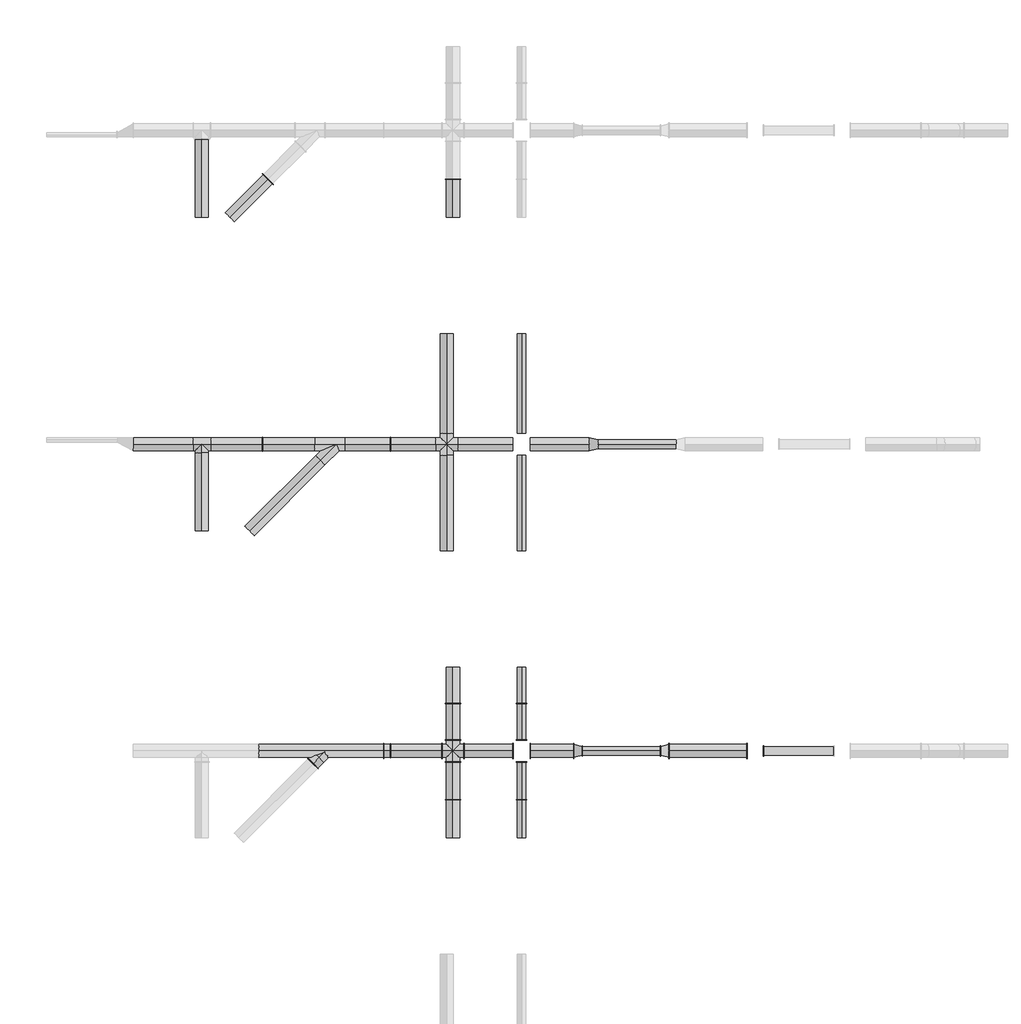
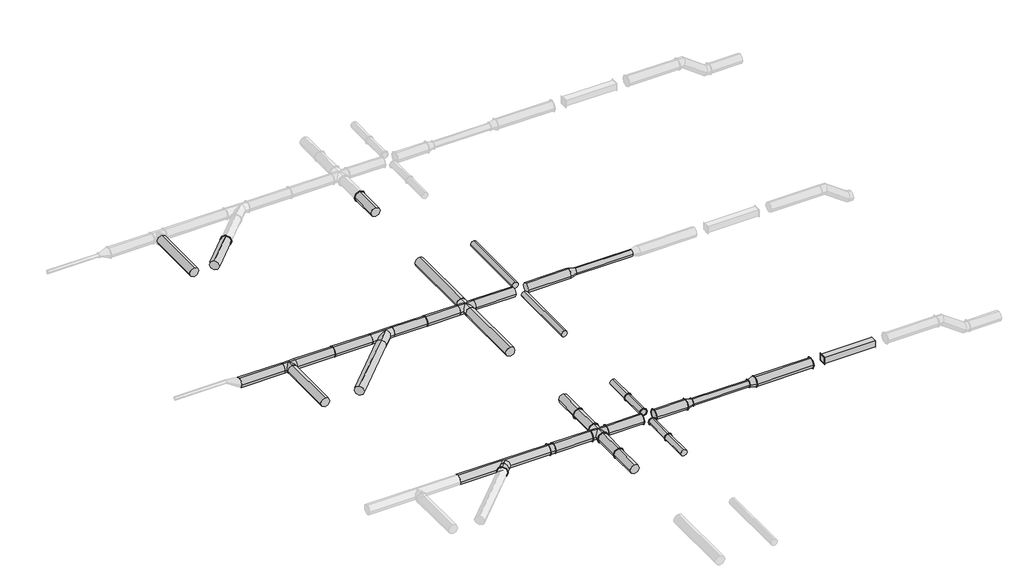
# One storey, part 2 of 8: 33 duct fittings, 33 duct segments.
"""IFC4 building model written with IfcOpenShell, lengths in millimetres."""

from ifc_helpers import new_model, si_unit, point, frame, frame_2d, origin, place, context, project, spatial, polyline, circle_curve, trimmed, segment, composite_curve, outline, extrude, transform, mapped, element, save
from components import duct_fitting_c73acc6d, duct_fitting_e0d7a8d8, duct_fitting_7b0f3d01, duct_fitting_c498028a, duct_fitting_766df063, duct_fitting_ef46aa1c, duct_fitting_3f762420, duct_fitting_a26a523e, duct_fitting_8ec2bed2, duct_fitting_327ef4ee, duct_fitting_1ddd712a, duct_fitting_6a6d7aa5, duct_fitting_49a873c3

model = new_model("IFC4")

# Units and contexts
model_context = context("Model", 3, world=origin())
ifc_project = project(units=[si_unit("LENGTHUNIT", "METRE", prefix="MILLI")], contexts=[model_context])

# Site, building, storey
site = spatial("IfcSite", under=ifc_project)
building = spatial("IfcBuilding", under=site)
storey = spatial("IfcBuildingStorey", under=building, Name="Уровень 1", Elevation=0.0)

# Duct fittings
placement = place(None, origin())
duct_fitting_shape = duct_fitting_c73acc6d(model_context)
element("IfcDuctFitting", 1, ObjectType="BL_КрестовинаВоздуховодов_Круглая : Ниппельное соединение", at=placement, inside=storey, context=model_context, shape_type="MappedRepresentation", body=[
    mapped(duct_fitting_shape, transform((-40817.6035183, 9680.2957144, 1050.0), x_axis=(0.0, 1.0, 0.0), y_axis=(-1.0, 0.0, 0.0), z_axis=(0.0, 0.0, 1.0))),
])
duct_fitting_2_shape = duct_fitting_e0d7a8d8(model_context)
element("IfcDuctFitting", 2, ObjectType="BL_ВрезкаВоздуховодов_Круглая : Фланцевое соединение", at=placement, inside=storey, context=model_context, shape_type="MappedRepresentation", body=[
    mapped(duct_fitting_2_shape, transform((-43756.6954888, 2461.2474283, 1050.0), x_axis=(-0.7071067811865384, -0.7071067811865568, 0.0), y_axis=(-0.7071067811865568, 0.7071067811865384, 0.0), z_axis=(0.0, 0.0, -1.0))),
])
duct_fitting_3_shape = duct_fitting_7b0f3d01(model_context)
element("IfcDuctFitting", 3, ObjectType="BL_ТройникВоздуховодов_Круглый-45 : Ниппельное соединение", at=placement, inside=storey, context=model_context, shape_type="MappedRepresentation", body=[
    mapped(duct_fitting_3_shape, transform((-43511.93314, 9680.2957144, 1050.0), x_axis=(-1.0, 0.0, 0.0), y_axis=(0.0, -1.0, 0.0), z_axis=(0.0, 0.0, 1.0))),
])
duct_fitting_4_shape = duct_fitting_c498028a(model_context)
element("IfcDuctFitting", 4, ObjectType="BL_ТройникВоздуховодов_Круглый-90 : Ниппельное соединение", at=placement, inside=storey, context=model_context, shape_type="MappedRepresentation", body=[
    mapped(duct_fitting_4_shape, transform((-46460.2026389, 9680.2957144, 1050.0), x_axis=(1.0, 0.0, 0.0), y_axis=(0.0, 1.0, 0.0), z_axis=(0.0, 0.0, 1.0))),
])
duct_fitting_5_shape = duct_fitting_766df063(model_context)
element("IfcDuctFitting", 5, ObjectType="BL_НиппельВоздуховдов_Круглый : BL_НиппельВоздуховдов_Круглый", at=placement, inside=storey, context=model_context, shape_type="MappedRepresentation", body=[
    mapped(duct_fitting_5_shape, transform((-45060.3141015, 9634.6214914, 1050.0), x_axis=(-1.0, 0.0, 0.0), y_axis=(0.0, -1.0, 0.0), z_axis=(0.0, 0.0, 1.0))),
])
element("IfcDuctFitting", 6, ObjectType="BL_НиппельВоздуховдов_Круглый : BL_НиппельВоздуховдов_Круглый", at=placement, inside=storey, context=model_context, shape_type="MappedRepresentation", body=[
    mapped(duct_fitting_5_shape, transform((-42115.5221171, 9634.6214914, 1050.0), x_axis=(-1.0, 0.0, 0.0), y_axis=(0.0, -1.0, 0.0), z_axis=(0.0, 0.0, 1.0))),
])
element("IfcDuctFitting", 7, ObjectType="BL_НиппельВоздуховдов_Круглый : BL_НиппельВоздуховдов_Круглый", at=placement, inside=storey, context=model_context, shape_type="MappedRepresentation", body=[
    mapped(duct_fitting_5_shape, transform((-42110.5221171, 2565.5732053, 1050.0), x_axis=(-1.0, 0.0, 0.0), y_axis=(0.0, -1.0, 0.0), z_axis=(0.0, 0.0, 1.0))),
])
duct_fitting_6_shape = duct_fitting_ef46aa1c(model_context)
element("IfcDuctFitting", 8, ObjectType="BL_ФланецВоздуховдов-Двойной_Круглый : BL_ФланецВоздуховдов-Двойной_Круглый", at=placement, inside=storey, context=model_context, shape_type="MappedRepresentation", body=[
    mapped(duct_fitting_6_shape, transform((-40719.7447871, 15786.2474283, 1050.0), x_axis=(0.0, 1.0, 0.0), y_axis=(-1.0, 0.0, 0.0), z_axis=(0.0, 0.0, 1.0))),
])
element("IfcDuctFitting", 9, ObjectType="BL_ФланецВоздуховдов-Двойной_Круглый : BL_ФланецВоздуховдов-Двойной_Круглый", at=placement, inside=storey, context=model_context, shape_type="MappedRepresentation", body=[
    mapped(duct_fitting_6_shape, transform((-44973.6209074, 15819.5439811, 1050.0), x_axis=(0.7071067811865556, 0.7071067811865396, 0.0), y_axis=(-0.7071067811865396, 0.7071067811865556, 0.0), z_axis=(0.0, 0.0, 1.0))),
])
element("IfcDuctFitting", 10, ObjectType="BL_ФланецВоздуховдов-Двойной_Круглый : BL_ФланецВоздуховдов-Двойной_Круглый", at=placement, inside=storey, context=model_context, shape_type="MappedRepresentation", body=[
    mapped(duct_fitting_6_shape, transform((-42271.4512474, 2565.5732053, 1050.0), x_axis=(-1.0, 0.0, 0.0), y_axis=(0.0, -1.0, 0.0), z_axis=(0.0, 0.0, 1.0))),
])
element("IfcDuctFitting", 11, ObjectType="BL_ФланецВоздуховдов-Двойной_Круглый : BL_ФланецВоздуховдов-Двойной_Круглый", at=placement, inside=storey, context=model_context, shape_type="MappedRepresentation", body=[
    mapped(duct_fitting_6_shape, transform((-40719.7447871, 1486.2474283, 1050.0), x_axis=(0.0, 1.0, 0.0), y_axis=(-1.0, 0.0, 0.0), z_axis=(0.0, 0.0, 1.0))),
])
element("IfcDuctFitting", 12, ObjectType="BL_ФланецВоздуховдов-Двойной_Круглый : BL_ФланецВоздуховдов-Двойной_Круглый", at=placement, inside=storey, context=model_context, shape_type="MappedRepresentation", body=[
    mapped(duct_fitting_6_shape, transform((-40719.7447871, 3702.4373404, 1050.0), x_axis=(0.0, 1.0, 0.0), y_axis=(-1.0, 0.0, 0.0), z_axis=(0.0, 0.0, 1.0))),
])
duct_fitting_7_shape = duct_fitting_3f762420(model_context)
element("IfcDuctFitting", 13, ObjectType="BL_ФланецВоздуховдов-Двойной_Круглый : BL_ФланецВоздуховдов-Двойной_Круглый", at=placement, inside=storey, context=model_context, shape_type="MappedRepresentation", body=[
    mapped(duct_fitting_7_shape, transform((-39139.7447871, 3701.4373404, 1050.0), x_axis=(0.0, 1.0, 0.0), y_axis=(-1.0, 0.0, 0.0), z_axis=(0.0, 0.0, 1.0))),
])
element("IfcDuctFitting", 14, ObjectType="BL_ФланецВоздуховдов-Двойной_Круглый : BL_ФланецВоздуховдов-Двойной_Круглый", at=placement, inside=storey, context=model_context, shape_type="MappedRepresentation", body=[
    mapped(duct_fitting_7_shape, transform((-39139.7447871, 1485.2474283, 1050.0), x_axis=(0.0, 1.0, 0.0), y_axis=(-1.0, 0.0, 0.0), z_axis=(0.0, 0.0, 1.0))),
])
element("IfcDuctFitting", 15, ObjectType="BL_КрестовинаВоздуховодов_Круглая : Фланцевое соединение", at=placement, inside=storey, context=model_context, shape_type="MappedRepresentation", body=[
    mapped(duct_fitting_shape, transform((-40674.0705642, 2611.2474283, 1050.0), x_axis=(0.0, 1.0, 0.0), y_axis=(-1.0, 0.0, 0.0), z_axis=(0.0, 0.0, 1.0))),
])
duct_fitting_8_shape = duct_fitting_a26a523e(model_context)
element("IfcDuctFitting", 16, ObjectType="BL_ФланецВоздуховдов-Двойной_Круглый_БезКоннекторов : BL_ФланецВоздуховдов-Двойной_Круглый_БезКоннекторов", at=placement, inside=storey, context=model_context, shape_type="MappedRepresentation", body=[
    mapped(duct_fitting_8_shape, transform((-39139.7447871, 2361.2474283, 1050.0), x_axis=(0.0, 1.0, 0.0), y_axis=(-1.0, 0.0, 0.0), z_axis=(0.0, 0.0, 1.0))),
])
element("IfcDuctFitting", 17, ObjectType="BL_ФланецВоздуховдов-Двойной_Круглый_БезКоннекторов : BL_ФланецВоздуховдов-Двойной_Круглый_БезКоннекторов", at=placement, inside=storey, context=model_context, shape_type="MappedRepresentation", body=[
    mapped(duct_fitting_8_shape, transform((-39139.7447871, 2861.2474283, 1050.0), x_axis=(0.0, 1.0, 0.0), y_axis=(-1.0, 0.0, 0.0), z_axis=(0.0, 0.0, 1.0))),
])
duct_fitting_9_shape = duct_fitting_8ec2bed2(model_context)
element("IfcDuctFitting", 18, ObjectType="BL_ФланецВоздуховдов-Двойной_Круглый_БезКоннекторов : BL_ФланецВоздуховдов-Двойной_Круглый_БезКоннекторов", at=placement, inside=storey, context=model_context, shape_type="MappedRepresentation", body=[
    mapped(duct_fitting_9_shape, transform((-33894.0705642, 2565.5732053, 1050.0), x_axis=(-1.0, 0.0, 0.0), y_axis=(0.0, -1.0, 0.0), z_axis=(0.0, 0.0, 1.0))),
])
element("IfcDuctFitting", 19, ObjectType="BL_ФланецВоздуховдов-Двойной_Круглый_БезКоннекторов : BL_ФланецВоздуховдов-Двойной_Круглый_БезКоннекторов", at=placement, inside=storey, context=model_context, shape_type="MappedRepresentation", body=[
    mapped(duct_fitting_9_shape, transform((-40719.7447871, 2861.2474283, 1050.0), x_axis=(0.0, 1.0, 0.0), y_axis=(-1.0, 0.0, 0.0), z_axis=(0.0, 0.0, 1.0))),
])
element("IfcDuctFitting", 20, ObjectType="BL_ФланецВоздуховдов-Двойной_Круглый_БезКоннекторов : BL_ФланецВоздуховдов-Двойной_Круглый_БезКоннекторов", at=placement, inside=storey, context=model_context, shape_type="MappedRepresentation", body=[
    mapped(duct_fitting_9_shape, transform((-40719.7447871, 2361.2474283, 1050.0), x_axis=(0.0, 1.0, 0.0), y_axis=(-1.0, 0.0, 0.0), z_axis=(0.0, 0.0, 1.0))),
])
element("IfcDuctFitting", 21, ObjectType="BL_ФланецВоздуховдов-Двойной_Круглый_БезКоннекторов : BL_ФланецВоздуховдов-Двойной_Круглый_БезКоннекторов", at=placement, inside=storey, context=model_context, shape_type="MappedRepresentation", body=[
    mapped(duct_fitting_9_shape, transform((-40424.0705642, 2565.5732053, 1050.0), x_axis=(-1.0, 0.0, 0.0), y_axis=(0.0, -1.0, 0.0), z_axis=(0.0, 0.0, 1.0))),
])
element("IfcDuctFitting", 22, ObjectType="BL_ФланецВоздуховдов-Двойной_Круглый_БезКоннекторов : BL_ФланецВоздуховдов-Двойной_Круглый_БезКоннекторов", at=placement, inside=storey, context=model_context, shape_type="MappedRepresentation", body=[
    mapped(duct_fitting_9_shape, transform((-40924.0705642, 2565.5732053, 1050.0), x_axis=(-1.0, 0.0, 0.0), y_axis=(0.0, -1.0, 0.0), z_axis=(0.0, 0.0, 1.0))),
])
element("IfcDuctFitting", 23, ObjectType="BL_ФланецВоздуховдов-Двойной_Круглый_БезКоннекторов : BL_ФланецВоздуховдов-Двойной_Круглый_БезКоннекторов", at=placement, inside=storey, context=model_context, shape_type="MappedRepresentation", body=[
    mapped(duct_fitting_9_shape, transform((-38894.0705642, 2656.9216512, 1050.0), x_axis=(1.0, 0.0, 0.0), y_axis=(0.0, 1.0, 0.0), z_axis=(0.0, 0.0, 1.0))),
])
element("IfcDuctFitting", 24, ObjectType="BL_ФланецВоздуховдов-Двойной_Круглый_БезКоннекторов : BL_ФланецВоздуховдов-Двойной_Круглый_БезКоннекторов", at=placement, inside=storey, context=model_context, shape_type="MappedRepresentation", body=[
    mapped(duct_fitting_9_shape, transform((-39294.0705642, 2656.9216512, 1050.0), x_axis=(1.0, 0.0, 0.0), y_axis=(0.0, 1.0, 0.0), z_axis=(0.0, 0.0, 1.0))),
])
duct_fitting_10_shape = duct_fitting_327ef4ee(model_context)
element("IfcDuctFitting", 25, ObjectType="BL_ПереходникВоздуховодов_Круглый : Фланцевое соединение", at=placement, inside=storey, context=model_context, shape_type="MappedRepresentation", body=[
    mapped(duct_fitting_10_shape, transform((-37894.0705642, 2611.2474283, 1050.0), x_axis=(1.0, 0.0, 0.0), y_axis=(0.0, 1.0, 0.0), z_axis=(0.0, 0.0, 1.0))),
])
duct_fitting_11_shape = duct_fitting_1ddd712a(model_context)
element("IfcDuctFitting", 26, ObjectType="BL_ПереходникВоздуховодов_Круглый : Фланцевое соединение", at=placement, inside=storey, context=model_context, shape_type="MappedRepresentation", body=[
    mapped(duct_fitting_11_shape, transform((-35894.0705642, 2611.2474283, 1050.0), x_axis=(1.0, 0.0, 0.0), y_axis=(0.0, 1.0, 0.0), z_axis=(0.0, 0.0, 1.0))),
])
element("IfcDuctFitting", 27, ObjectType="BL_ПереходникВоздуховодов_Круглый : Ниппельное соединение", at=placement, inside=storey, context=model_context, shape_type="MappedRepresentation", body=[
    mapped(duct_fitting_10_shape, transform((-37531.6491772, 9680.2957144, 1050.0), x_axis=(1.0, 0.0, 0.0), y_axis=(0.0, 1.0, 0.0), z_axis=(0.0, 0.0, 1.0))),
])
duct_fitting_12_shape = duct_fitting_6a6d7aa5(model_context)
element("IfcDuctFitting", 28, ObjectType="BL_ФланецВоздуховдов-Двойной_Круглый_БезКоннекторов : BL_ФланецВоздуховдов-Двойной_Круглый_БезКоннекторов", at=placement, inside=storey, context=model_context, shape_type="MappedRepresentation", body=[
    mapped(duct_fitting_12_shape, transform((-43865.8202922, 2287.5295193, 1050.0), x_axis=(-0.7071067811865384, -0.7071067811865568, 0.0), y_axis=(-0.7071067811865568, 0.7071067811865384, 0.0), z_axis=(0.0, 0.0, -1.0))),
])
element("IfcDuctFitting", 29, ObjectType="BL_ФланецВоздуховдов-Двойной_Круглый_БезКоннекторов : BL_ФланецВоздуховдов-Двойной_Круглый_БезКоннекторов", at=placement, inside=storey, context=model_context, shape_type="MappedRepresentation", body=[
    mapped(duct_fitting_7_shape, transform((-37694.0705642, 2656.9216512, 1050.0), x_axis=(1.0, 0.0, 0.0), y_axis=(0.0, 1.0, 0.0), z_axis=(0.0, 0.0, 1.0))),
])
element("IfcDuctFitting", 30, ObjectType="BL_ФланецВоздуховдов-Двойной_Круглый_БезКоннекторов : BL_ФланецВоздуховдов-Двойной_Круглый_БезКоннекторов", at=placement, inside=storey, context=model_context, shape_type="MappedRepresentation", body=[
    mapped(duct_fitting_7_shape, transform((-35894.0705642, 2656.9216512, 1050.0), x_axis=(1.0, 0.0, 0.0), y_axis=(0.0, 1.0, 0.0), z_axis=(0.0, 0.0, 1.0))),
])
element("IfcDuctFitting", 31, ObjectType="BL_ФланецВоздуховдов-Двойной_Круглый_БезКоннекторов : BL_ФланецВоздуховдов-Двойной_Круглый_БезКоннекторов", at=placement, inside=storey, context=model_context, shape_type="MappedRepresentation", body=[
    mapped(duct_fitting_6_shape, transform((-37894.0705642, 2656.9216512, 1050.0), x_axis=(1.0, 0.0, 0.0), y_axis=(0.0, 1.0, 0.0), z_axis=(0.0, 0.0, 1.0))),
])
element("IfcDuctFitting", 32, ObjectType="BL_ФланецВоздуховдов-Двойной_Круглый_БезКоннекторов : BL_ФланецВоздуховдов-Двойной_Круглый_БезКоннекторов", at=placement, inside=storey, context=model_context, shape_type="MappedRepresentation", body=[
    mapped(duct_fitting_6_shape, transform((-35694.0705642, 2656.9216512, 1050.0), x_axis=(1.0, 0.0, 0.0), y_axis=(0.0, 1.0, 0.0), z_axis=(0.0, 0.0, 1.0))),
])
duct_fitting_13_shape = duct_fitting_49a873c3(model_context)
element("IfcDuctFitting", 33, ObjectType="BL_ФланецВоздуховдов-Двойной_Прямоугольный_БезКоннекторов : BL_ФланецВоздуховдов-Двойной_Прямоугольный_БезКоннекторов", at=placement, inside=storey, context=model_context, shape_type="MappedRepresentation", body=[
    mapped(duct_fitting_13_shape, transform((-33519.0705642, 2565.5732053, 1050.0), x_axis=(-1.0, 0.0, 0.0), y_axis=(0.0, -1.0, 0.0), z_axis=(0.0, 0.0, 1.0))),
])

# Duct segments
element("IfcDuctSegment", 34, ObjectType="BL_Воздуховод круглого сечения_Тройники_Фланцевое соединение", at=placement, inside=storey, context=model_context, shape_type="SweptSolid", body=[
    extrude(outline(composite_curve([segment(trimmed(circle_curve(frame_2d((1050.0, -46460.2026389)), 150.0), [point((1050.0, -46610.2026389))], [point((900.0, -46460.2026389))], False, "CARTESIAN"), True, "CONTINUOUS"), segment(trimmed(circle_curve(frame_2d((1050.0, -46460.2026389)), 150.0), [point((900.0, -46460.2026389))], [point((1050.0, -46310.2026389))], False, "CARTESIAN"), True, "CONTINUOUS"), segment(trimmed(circle_curve(frame_2d((1050.0, -46460.2026389)), 150.0), [point((1050.0, -46310.2026389))], [point((1200.0, -46460.2026389))], False, "CARTESIAN"), True, "CONTINUOUS"), segment(trimmed(circle_curve(frame_2d((1050.0, -46460.2026389)), 150.0), [point((1200.0, -46460.2026389))], [point((1050.0, -46610.2026389))], False, "CARTESIAN"), True, "CONTINUOUS")], self_intersect=False)), frame((0.0, 14911.2474283, 0.0), z_axis=(0.0, 1.0, 0.0), x_axis=(0.0, 0.0, 1.0)), (0.0, 0.0, 1.0), 1800.0),
])
element("IfcDuctSegment", 35, ObjectType="BL_Воздуховод круглого сечения_Тройники_Фланцевое соединение", at=placement, inside=storey, context=model_context, shape_type="SweptSolid", body=[
    extrude(outline(composite_curve([segment(trimmed(circle_curve(frame_2d((0.0, -150.0)), 150.0), [point((-150.0, -150.0))], [point((0.0, 0.0))], False, "CARTESIAN"), True, "CONTINUOUS"), segment(trimmed(circle_curve(frame_2d((0.0, -150.0)), 150.0), [point((0.0, 0.0))], [point((150.0, -150.0))], False, "CARTESIAN"), True, "CONTINUOUS"), segment(trimmed(circle_curve(frame_2d((0.0, -150.0)), 150.0), [point((150.0, -150.0))], [point((0.0, -300.0))], False, "CARTESIAN"), True, "CONTINUOUS"), segment(trimmed(circle_curve(frame_2d((0.0, -150.0)), 150.0), [point((0.0, -300.0))], [point((-150.0, -150.0))], False, "CARTESIAN"), True, "CONTINUOUS")], self_intersect=False)), frame((-45817.3243546, 14911.2474283, 900.0), z_axis=(0.7071067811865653, 0.7071067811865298, 0.0), x_axis=(0.7071067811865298, -0.7071067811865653, 0.0)), (0.0, 0.0, 1.0), 1237.8510806),
])
element("IfcDuctSegment", 36, ObjectType="BL_Воздуховод круглого сечения_Тройники_Фланцевое соединение", at=placement, inside=storey, context=model_context, shape_type="SweptSolid", body=[
    extrude(outline(composite_curve([segment(trimmed(circle_curve(frame_2d((1050.0, -40674.0705642)), 150.0), [point((1050.0, -40824.0705642))], [point((900.0, -40674.0705642))], False, "CARTESIAN"), True, "CONTINUOUS"), segment(trimmed(circle_curve(frame_2d((1050.0, -40674.0705642)), 150.0), [point((900.0, -40674.0705642))], [point((1050.0, -40524.0705642))], False, "CARTESIAN"), True, "CONTINUOUS"), segment(trimmed(circle_curve(frame_2d((1050.0, -40674.0705642)), 150.0), [point((1050.0, -40524.0705642))], [point((1200.0, -40674.0705642))], False, "CARTESIAN"), True, "CONTINUOUS"), segment(trimmed(circle_curve(frame_2d((1050.0, -40674.0705642)), 150.0), [point((1200.0, -40674.0705642))], [point((1050.0, -40824.0705642))], False, "CARTESIAN"), True, "CONTINUOUS")], self_intersect=False)), frame((0.0, 14911.2474283, 0.0), z_axis=(0.0, 1.0, 0.0), x_axis=(0.0, 0.0, 1.0)), (0.0, 0.0, 1.0), 874.0),
])
element("IfcDuctSegment", 37, ObjectType="BL_Воздуховод круглого сечения_Тройники_Ниппельное соединение", at=placement, inside=storey, context=model_context, shape_type="SweptSolid", body=[
    extrude(outline(composite_curve([segment(trimmed(circle_curve(frame_2d((9680.2957144, 1050.0)), 150.0), [point((9530.2957144, 1050.0))], [point((9680.2957144, 1200.0))], False, "CARTESIAN"), True, "CONTINUOUS"), segment(trimmed(circle_curve(frame_2d((9680.2957144, 1050.0)), 150.0), [point((9680.2957144, 1200.0))], [point((9830.2957144, 1050.0))], False, "CARTESIAN"), True, "CONTINUOUS"), segment(trimmed(circle_curve(frame_2d((9680.2957144, 1050.0)), 150.0), [point((9830.2957144, 1050.0))], [point((9680.2957144, 900.0))], False, "CARTESIAN"), True, "CONTINUOUS"), segment(trimmed(circle_curve(frame_2d((9680.2957144, 1050.0)), 150.0), [point((9680.2957144, 900.0))], [point((9530.2957144, 1050.0))], False, "CARTESIAN"), True, "CONTINUOUS")], self_intersect=False)), frame((-38894.0705642, 0.0, 0.0), z_axis=(1.0, 0.0, 0.0), x_axis=(0.0, 1.0, 0.0)), (0.0, 0.0, 1.0), 1362.4213869),
])
element("IfcDuctSegment", 38, ObjectType="BL_Воздуховод круглого сечения_Тройники_Ниппельное соединение", at=placement, inside=storey, context=model_context, shape_type="SweptSolid", body=[
    extrude(outline(composite_curve([segment(trimmed(circle_curve(frame_2d((1050.0, -46460.2026389)), 150.0), [point((1050.0, -46610.2026389))], [point((900.0, -46460.2026389))], False, "CARTESIAN"), True, "CONTINUOUS"), segment(trimmed(circle_curve(frame_2d((1050.0, -46460.2026389)), 150.0), [point((900.0, -46460.2026389))], [point((1050.0, -46310.2026389))], False, "CARTESIAN"), True, "CONTINUOUS"), segment(trimmed(circle_curve(frame_2d((1050.0, -46460.2026389)), 150.0), [point((1050.0, -46310.2026389))], [point((1200.0, -46460.2026389))], False, "CARTESIAN"), True, "CONTINUOUS"), segment(trimmed(circle_curve(frame_2d((1050.0, -46460.2026389)), 150.0), [point((1200.0, -46460.2026389))], [point((1050.0, -46610.2026389))], False, "CARTESIAN"), True, "CONTINUOUS")], self_intersect=False)), frame((0.0, 7680.2957144, 0.0), z_axis=(0.0, 1.0, 0.0), x_axis=(0.0, 0.0, 1.0)), (0.0, 0.0, 1.0), 1800.0),
])
element("IfcDuctSegment", 39, ObjectType="BL_Воздуховод круглого сечения_Тройники_Ниппельное соединение", at=placement, inside=storey, context=model_context, shape_type="SweptSolid", body=[
    extrude(outline(composite_curve([segment(trimmed(circle_curve(frame_2d((9680.2957144, 1050.0)), 150.0), [point((9530.2957144, 1050.0))], [point((9680.2957144, 1200.0))], False, "CARTESIAN"), True, "CONTINUOUS"), segment(trimmed(circle_curve(frame_2d((9680.2957144, 1050.0)), 150.0), [point((9680.2957144, 1200.0))], [point((9830.2957144, 1050.0))], False, "CARTESIAN"), True, "CONTINUOUS"), segment(trimmed(circle_curve(frame_2d((9680.2957144, 1050.0)), 150.0), [point((9830.2957144, 1050.0))], [point((9680.2957144, 900.0))], False, "CARTESIAN"), True, "CONTINUOUS"), segment(trimmed(circle_curve(frame_2d((9680.2957144, 1050.0)), 150.0), [point((9680.2957144, 900.0))], [point((9530.2957144, 1050.0))], False, "CARTESIAN"), True, "CONTINUOUS")], self_intersect=False)), frame((-48040.6087126, 0.0, 0.0), z_axis=(1.0, 0.0, 0.0), x_axis=(0.0, 1.0, 0.0)), (0.0, 0.0, 1.0), 1380.4060737),
])
element("IfcDuctSegment", 40, ObjectType="BL_Воздуховод круглого сечения_Тройники_Ниппельное соединение", at=placement, inside=storey, context=model_context, shape_type="SweptSolid", body=[
    extrude(outline(composite_curve([segment(trimmed(circle_curve(frame_2d((0.0, -150.0)), 150.0), [point((-150.0, -150.0))], [point((0.0, 0.0))], False, "CARTESIAN"), True, "CONTINUOUS"), segment(trimmed(circle_curve(frame_2d((0.0, -150.0)), 150.0), [point((0.0, 0.0))], [point((150.0, -150.0))], False, "CARTESIAN"), True, "CONTINUOUS"), segment(trimmed(circle_curve(frame_2d((0.0, -150.0)), 150.0), [point((150.0, -150.0))], [point((0.0, -300.0))], False, "CARTESIAN"), True, "CONTINUOUS"), segment(trimmed(circle_curve(frame_2d((0.0, -150.0)), 150.0), [point((0.0, -300.0))], [point((-150.0, -150.0))], False, "CARTESIAN"), True, "CONTINUOUS")], self_intersect=False)), frame((-45361.93314, 7680.2957144, 900.0), z_axis=(0.7071067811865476, 0.7071067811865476, 0.0), x_axis=(0.7071067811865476, -0.7071067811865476, 0.0)), (0.0, 0.0, 1.0), 2304.163056),
])
element("IfcDuctSegment", 41, ObjectType="BL_Воздуховод круглого сечения_Тройники_Ниппельное соединение", at=placement, inside=storey, context=model_context, shape_type="SweptSolid", body=[
    extrude(outline(composite_curve([segment(trimmed(circle_curve(frame_2d((9680.2957144, 1050.0)), 150.0), [point((9530.2957144, 1050.0))], [point((9680.2957144, 1200.0))], False, "CARTESIAN"), True, "CONTINUOUS"), segment(trimmed(circle_curve(frame_2d((9680.2957144, 1050.0)), 150.0), [point((9680.2957144, 1200.0))], [point((9830.2957144, 1050.0))], False, "CARTESIAN"), True, "CONTINUOUS"), segment(trimmed(circle_curve(frame_2d((9680.2957144, 1050.0)), 150.0), [point((9830.2957144, 1050.0))], [point((9680.2957144, 900.0))], False, "CARTESIAN"), True, "CONTINUOUS"), segment(trimmed(circle_curve(frame_2d((9680.2957144, 1050.0)), 150.0), [point((9680.2957144, 900.0))], [point((9530.2957144, 1050.0))], False, "CARTESIAN"), True, "CONTINUOUS")], self_intersect=False)), frame((-45055.3141015, 0.0, 0.0), z_axis=(1.0, 0.0, 0.0), x_axis=(0.0, 1.0, 0.0)), (0.0, 0.0, 1.0), 1194.8885375),
])
element("IfcDuctSegment", 42, ObjectType="BL_Воздуховод круглого сечения_Тройники_Ниппельное соединение", at=placement, inside=storey, context=model_context, shape_type="SweptSolid", body=[
    extrude(outline(composite_curve([segment(trimmed(circle_curve(frame_2d((1050.0, -40817.6035183)), 150.0), [point((1050.0, -40967.6035183))], [point((900.0, -40817.6035183))], False, "CARTESIAN"), True, "CONTINUOUS"), segment(trimmed(circle_curve(frame_2d((1050.0, -40817.6035183)), 150.0), [point((900.0, -40817.6035183))], [point((1050.0, -40667.6035183))], False, "CARTESIAN"), True, "CONTINUOUS"), segment(trimmed(circle_curve(frame_2d((1050.0, -40817.6035183)), 150.0), [point((1050.0, -40667.6035183))], [point((1200.0, -40817.6035183))], False, "CARTESIAN"), True, "CONTINUOUS"), segment(trimmed(circle_curve(frame_2d((1050.0, -40817.6035183)), 150.0), [point((1200.0, -40817.6035183))], [point((1050.0, -40967.6035183))], False, "CARTESIAN"), True, "CONTINUOUS")], self_intersect=False)), frame((0.0, 7224.625336, 0.0), z_axis=(0.0, 1.0, 0.0), x_axis=(0.0, 0.0, 1.0)), (0.0, 0.0, 1.0), 2205.6703783),
])
element("IfcDuctSegment", 43, ObjectType="BL_Воздуховод круглого сечения_Тройники_Ниппельное соединение", at=placement, inside=storey, context=model_context, shape_type="SweptSolid", body=[
    extrude(outline(composite_curve([segment(trimmed(circle_curve(frame_2d((1050.0, -40817.6035183)), 150.0), [point((1050.0, -40967.6035183))], [point((900.0, -40817.6035183))], False, "CARTESIAN"), True, "CONTINUOUS"), segment(trimmed(circle_curve(frame_2d((1050.0, -40817.6035183)), 150.0), [point((900.0, -40817.6035183))], [point((1050.0, -40667.6035183))], False, "CARTESIAN"), True, "CONTINUOUS"), segment(trimmed(circle_curve(frame_2d((1050.0, -40817.6035183)), 150.0), [point((1050.0, -40667.6035183))], [point((1200.0, -40817.6035183))], False, "CARTESIAN"), True, "CONTINUOUS"), segment(trimmed(circle_curve(frame_2d((1050.0, -40817.6035183)), 150.0), [point((1200.0, -40817.6035183))], [point((1050.0, -40967.6035183))], False, "CARTESIAN"), True, "CONTINUOUS")], self_intersect=False)), frame((0.0, 9930.2957144, 0.0), z_axis=(0.0, 1.0, 0.0), x_axis=(0.0, 0.0, 1.0)), (0.0, 0.0, 1.0), 2294.3296217),
])
element("IfcDuctSegment", 44, ObjectType="BL_Воздуховод круглого сечения_Тройники_Ниппельное соединение", at=placement, inside=storey, context=model_context, shape_type="SweptSolid", body=[
    extrude(outline(composite_curve([segment(trimmed(circle_curve(frame_2d((9680.2957144, 1050.0)), 150.0), [point((9530.2957144, 1050.0))], [point((9680.2957144, 1200.0))], False, "CARTESIAN"), True, "CONTINUOUS"), segment(trimmed(circle_curve(frame_2d((9680.2957144, 1050.0)), 150.0), [point((9680.2957144, 1200.0))], [point((9830.2957144, 1050.0))], False, "CARTESIAN"), True, "CONTINUOUS"), segment(trimmed(circle_curve(frame_2d((9680.2957144, 1050.0)), 150.0), [point((9830.2957144, 1050.0))], [point((9680.2957144, 900.0))], False, "CARTESIAN"), True, "CONTINUOUS"), segment(trimmed(circle_curve(frame_2d((9680.2957144, 1050.0)), 150.0), [point((9680.2957144, 900.0))], [point((9530.2957144, 1050.0))], False, "CARTESIAN"), True, "CONTINUOUS")], self_intersect=False)), frame((-42110.5221171, 0.0, 0.0), z_axis=(1.0, 0.0, 0.0), x_axis=(0.0, 1.0, 0.0)), (0.0, 0.0, 1.0), 1042.9185988),
])
element("IfcDuctSegment", 45, ObjectType="BL_Воздуховод круглого сечения_Тройники_Ниппельное соединение", at=placement, inside=storey, context=model_context, shape_type="SweptSolid", body=[
    extrude(outline(composite_curve([segment(trimmed(circle_curve(frame_2d((1050.0, -39094.0705642)), 100.0), [point((1050.0, -39194.0705642))], [point((950.0, -39094.0705642))], False, "CARTESIAN"), True, "CONTINUOUS"), segment(trimmed(circle_curve(frame_2d((1050.0, -39094.0705642)), 100.0), [point((950.0, -39094.0705642))], [point((1050.0, -38994.0705642))], False, "CARTESIAN"), True, "CONTINUOUS"), segment(trimmed(circle_curve(frame_2d((1050.0, -39094.0705642)), 100.0), [point((1050.0, -38994.0705642))], [point((1150.0, -39094.0705642))], False, "CARTESIAN"), True, "CONTINUOUS"), segment(trimmed(circle_curve(frame_2d((1050.0, -39094.0705642)), 100.0), [point((1150.0, -39094.0705642))], [point((1050.0, -39194.0705642))], False, "CARTESIAN"), True, "CONTINUOUS")], self_intersect=False)), frame((0.0, 7224.625336, 0.0), z_axis=(0.0, 1.0, 0.0), x_axis=(0.0, 0.0, 1.0)), (0.0, 0.0, 1.0), 2205.6703783),
])
element("IfcDuctSegment", 46, ObjectType="BL_Воздуховод круглого сечения_Тройники_Ниппельное соединение", at=placement, inside=storey, context=model_context, shape_type="SweptSolid", body=[
    extrude(outline(composite_curve([segment(trimmed(circle_curve(frame_2d((1050.0, -39094.0705642)), 100.0), [point((1050.0, -39194.0705642))], [point((950.0, -39094.0705642))], False, "CARTESIAN"), True, "CONTINUOUS"), segment(trimmed(circle_curve(frame_2d((1050.0, -39094.0705642)), 100.0), [point((950.0, -39094.0705642))], [point((1050.0, -38994.0705642))], False, "CARTESIAN"), True, "CONTINUOUS"), segment(trimmed(circle_curve(frame_2d((1050.0, -39094.0705642)), 100.0), [point((1050.0, -38994.0705642))], [point((1150.0, -39094.0705642))], False, "CARTESIAN"), True, "CONTINUOUS"), segment(trimmed(circle_curve(frame_2d((1050.0, -39094.0705642)), 100.0), [point((1150.0, -39094.0705642))], [point((1050.0, -39194.0705642))], False, "CARTESIAN"), True, "CONTINUOUS")], self_intersect=False)), frame((0.0, 9930.2957144, 0.0), z_axis=(0.0, 1.0, 0.0), x_axis=(0.0, 0.0, 1.0)), (0.0, 0.0, 1.0), 2294.3296217),
])
element("IfcDuctSegment", 47, ObjectType="BL_Воздуховод круглого сечения_Тройники_Ниппельное соединение", at=placement, inside=storey, context=model_context, shape_type="SweptSolid", body=[
    extrude(outline(composite_curve([segment(trimmed(circle_curve(frame_2d((9680.2957144, 1050.0)), 150.0), [point((9530.2957144, 1050.0))], [point((9680.2957144, 1200.0))], False, "CARTESIAN"), True, "CONTINUOUS"), segment(trimmed(circle_curve(frame_2d((9680.2957144, 1050.0)), 150.0), [point((9680.2957144, 1200.0))], [point((9830.2957144, 1050.0))], False, "CARTESIAN"), True, "CONTINUOUS"), segment(trimmed(circle_curve(frame_2d((9680.2957144, 1050.0)), 150.0), [point((9830.2957144, 1050.0))], [point((9680.2957144, 900.0))], False, "CARTESIAN"), True, "CONTINUOUS"), segment(trimmed(circle_curve(frame_2d((9680.2957144, 1050.0)), 150.0), [point((9680.2957144, 900.0))], [point((9530.2957144, 1050.0))], False, "CARTESIAN"), True, "CONTINUOUS")], self_intersect=False)), frame((-40567.6035183, 0.0, 0.0), z_axis=(1.0, 0.0, 0.0), x_axis=(0.0, 1.0, 0.0)), (0.0, 0.0, 1.0), 1273.5329541),
])
element("IfcDuctSegment", 48, ObjectType="BL_Воздуховод круглого сечения_Тройники_Ниппельное соединение", at=placement, inside=storey, context=model_context, shape_type="SweptSolid", body=[
    extrude(outline(composite_curve([segment(trimmed(circle_curve(frame_2d((9680.2957144, 1050.0)), 100.0), [point((9580.2957144, 1050.0))], [point((9680.2957144, 1150.0))], False, "CARTESIAN"), True, "CONTINUOUS"), segment(trimmed(circle_curve(frame_2d((9680.2957144, 1050.0)), 100.0), [point((9680.2957144, 1150.0))], [point((9780.2957144, 1050.0))], False, "CARTESIAN"), True, "CONTINUOUS"), segment(trimmed(circle_curve(frame_2d((9680.2957144, 1050.0)), 100.0), [point((9780.2957144, 1050.0))], [point((9680.2957144, 950.0))], False, "CARTESIAN"), True, "CONTINUOUS"), segment(trimmed(circle_curve(frame_2d((9680.2957144, 1050.0)), 100.0), [point((9680.2957144, 950.0))], [point((9580.2957144, 1050.0))], False, "CARTESIAN"), True, "CONTINUOUS")], self_intersect=False)), frame((-37331.6491772, 0.0, 0.0), z_axis=(1.0, 0.0, 0.0), x_axis=(0.0, 1.0, 0.0)), (0.0, 0.0, 1.0), 1800.0),
])
element("IfcDuctSegment", 49, ObjectType="BL_Воздуховод круглого сечения_Врезки_Фланцевое соединение", at=placement, inside=storey, context=model_context, shape_type="SweptSolid", body=[
    extrude(outline(composite_curve([segment(trimmed(circle_curve(frame_2d((2611.2474283, 1050.0)), 150.0), [point((2461.2474283, 1050.0))], [point((2611.2474283, 1200.0))], False, "CARTESIAN"), True, "CONTINUOUS"), segment(trimmed(circle_curve(frame_2d((2611.2474283, 1050.0)), 150.0), [point((2611.2474283, 1200.0))], [point((2761.2474283, 1050.0))], False, "CARTESIAN"), True, "CONTINUOUS"), segment(trimmed(circle_curve(frame_2d((2611.2474283, 1050.0)), 150.0), [point((2761.2474283, 1050.0))], [point((2611.2474283, 900.0))], False, "CARTESIAN"), True, "CONTINUOUS"), segment(trimmed(circle_curve(frame_2d((2611.2474283, 1050.0)), 150.0), [point((2611.2474283, 900.0))], [point((2461.2474283, 1050.0))], False, "CARTESIAN"), True, "CONTINUOUS")], self_intersect=False)), frame((-38894.0705642, 0.0, 0.0), z_axis=(1.0, 0.0, 0.0), x_axis=(0.0, 1.0, 0.0)), (0.0, 0.0, 1.0), 1000.0),
])
element("IfcDuctSegment", 50, ObjectType="BL_Воздуховод круглого сечения_Врезки_Фланцевое соединение", at=placement, inside=storey, context=model_context, shape_type="SweptSolid", body=[
    extrude(outline(composite_curve([segment(trimmed(circle_curve(frame_2d((1050.0, -40674.0705642)), 150.0), [point((1050.0, -40824.0705642))], [point((900.0, -40674.0705642))], False, "CARTESIAN"), True, "CONTINUOUS"), segment(trimmed(circle_curve(frame_2d((1050.0, -40674.0705642)), 150.0), [point((900.0, -40674.0705642))], [point((1050.0, -40524.0705642))], False, "CARTESIAN"), True, "CONTINUOUS"), segment(trimmed(circle_curve(frame_2d((1050.0, -40674.0705642)), 150.0), [point((1050.0, -40524.0705642))], [point((1200.0, -40674.0705642))], False, "CARTESIAN"), True, "CONTINUOUS"), segment(trimmed(circle_curve(frame_2d((1050.0, -40674.0705642)), 150.0), [point((1200.0, -40674.0705642))], [point((1050.0, -40824.0705642))], False, "CARTESIAN"), True, "CONTINUOUS")], self_intersect=False)), frame((0.0, 611.2474283, 0.0), z_axis=(0.0, 1.0, 0.0), x_axis=(0.0, 0.0, 1.0)), (0.0, 0.0, 1.0), 874.0),
])
element("IfcDuctSegment", 51, ObjectType="BL_Воздуховод круглого сечения_Врезки_Фланцевое соединение", at=placement, inside=storey, context=model_context, shape_type="SweptSolid", body=[
    extrude(outline(composite_curve([segment(trimmed(circle_curve(frame_2d((1050.0, -40674.0705642)), 150.0), [point((1050.0, -40824.0705642))], [point((900.0, -40674.0705642))], False, "CARTESIAN"), True, "CONTINUOUS"), segment(trimmed(circle_curve(frame_2d((1050.0, -40674.0705642)), 150.0), [point((900.0, -40674.0705642))], [point((1050.0, -40524.0705642))], False, "CARTESIAN"), True, "CONTINUOUS"), segment(trimmed(circle_curve(frame_2d((1050.0, -40674.0705642)), 150.0), [point((1050.0, -40524.0705642))], [point((1200.0, -40674.0705642))], False, "CARTESIAN"), True, "CONTINUOUS"), segment(trimmed(circle_curve(frame_2d((1050.0, -40674.0705642)), 150.0), [point((1200.0, -40674.0705642))], [point((1050.0, -40824.0705642))], False, "CARTESIAN"), True, "CONTINUOUS")], self_intersect=False)), frame((0.0, 2861.2474283, 0.0), z_axis=(0.0, 1.0, 0.0), x_axis=(0.0, 0.0, 1.0)), (0.0, 0.0, 1.0), 840.1899121),
])
element("IfcDuctSegment", 52, ObjectType="BL_Воздуховод круглого сечения_Врезки_Фланцевое соединение", at=placement, inside=storey, context=model_context, shape_type="SweptSolid", body=[
    extrude(outline(composite_curve([segment(trimmed(circle_curve(frame_2d((2611.2474283, 1050.0)), 150.0), [point((2461.2474283, 1050.0))], [point((2611.2474283, 1200.0))], False, "CARTESIAN"), True, "CONTINUOUS"), segment(trimmed(circle_curve(frame_2d((2611.2474283, 1050.0)), 150.0), [point((2611.2474283, 1200.0))], [point((2761.2474283, 1050.0))], False, "CARTESIAN"), True, "CONTINUOUS"), segment(trimmed(circle_curve(frame_2d((2611.2474283, 1050.0)), 150.0), [point((2761.2474283, 1050.0))], [point((2611.2474283, 900.0))], False, "CARTESIAN"), True, "CONTINUOUS"), segment(trimmed(circle_curve(frame_2d((2611.2474283, 1050.0)), 150.0), [point((2611.2474283, 900.0))], [point((2461.2474283, 1050.0))], False, "CARTESIAN"), True, "CONTINUOUS")], self_intersect=False)), frame((-42105.5221171, 0.0, 0.0), z_axis=(1.0, 0.0, 0.0), x_axis=(0.0, 1.0, 0.0)), (0.0, 0.0, 1.0), 1181.451553),
])
element("IfcDuctSegment", 53, ObjectType="BL_Воздуховод круглого сечения_Врезки_Фланцевое соединение", at=placement, inside=storey, context=model_context, shape_type="SweptSolid", body=[
    extrude(outline(composite_curve([segment(trimmed(circle_curve(frame_2d((1050.0, -39094.0705642)), 100.0), [point((1050.0, -39194.0705642))], [point((950.0, -39094.0705642))], False, "CARTESIAN"), True, "CONTINUOUS"), segment(trimmed(circle_curve(frame_2d((1050.0, -39094.0705642)), 100.0), [point((950.0, -39094.0705642))], [point((1050.0, -38994.0705642))], False, "CARTESIAN"), True, "CONTINUOUS"), segment(trimmed(circle_curve(frame_2d((1050.0, -39094.0705642)), 100.0), [point((1050.0, -38994.0705642))], [point((1150.0, -39094.0705642))], False, "CARTESIAN"), True, "CONTINUOUS"), segment(trimmed(circle_curve(frame_2d((1050.0, -39094.0705642)), 100.0), [point((1150.0, -39094.0705642))], [point((1050.0, -39194.0705642))], False, "CARTESIAN"), True, "CONTINUOUS")], self_intersect=False)), frame((0.0, 611.2474283, 0.0), z_axis=(0.0, 1.0, 0.0), x_axis=(0.0, 0.0, 1.0)), (0.0, 0.0, 1.0), 873.0),
])
element("IfcDuctSegment", 54, ObjectType="BL_Воздуховод круглого сечения_Врезки_Фланцевое соединение", at=placement, inside=storey, context=model_context, shape_type="SweptSolid", body=[
    extrude(outline(composite_curve([segment(trimmed(circle_curve(frame_2d((1050.0, -39094.0705642)), 100.0), [point((1050.0, -39194.0705642))], [point((950.0, -39094.0705642))], False, "CARTESIAN"), True, "CONTINUOUS"), segment(trimmed(circle_curve(frame_2d((1050.0, -39094.0705642)), 100.0), [point((950.0, -39094.0705642))], [point((1050.0, -38994.0705642))], False, "CARTESIAN"), True, "CONTINUOUS"), segment(trimmed(circle_curve(frame_2d((1050.0, -39094.0705642)), 100.0), [point((1050.0, -38994.0705642))], [point((1150.0, -39094.0705642))], False, "CARTESIAN"), True, "CONTINUOUS"), segment(trimmed(circle_curve(frame_2d((1050.0, -39094.0705642)), 100.0), [point((1150.0, -39094.0705642))], [point((1050.0, -39194.0705642))], False, "CARTESIAN"), True, "CONTINUOUS")], self_intersect=False)), frame((0.0, 2861.2474283, 0.0), z_axis=(0.0, 1.0, 0.0), x_axis=(0.0, 0.0, 1.0)), (0.0, 0.0, 1.0), 839.1899121),
])
element("IfcDuctSegment", 55, ObjectType="BL_Воздуховод круглого сечения_Врезки_Фланцевое соединение", at=placement, inside=storey, context=model_context, shape_type="SweptSolid", body=[
    extrude(outline(composite_curve([segment(trimmed(circle_curve(frame_2d((2611.2474283, 1050.0)), 150.0), [point((2461.2474283, 1050.0))], [point((2611.2474283, 1200.0))], False, "CARTESIAN"), True, "CONTINUOUS"), segment(trimmed(circle_curve(frame_2d((2611.2474283, 1050.0)), 150.0), [point((2611.2474283, 1200.0))], [point((2761.2474283, 1050.0))], False, "CARTESIAN"), True, "CONTINUOUS"), segment(trimmed(circle_curve(frame_2d((2611.2474283, 1050.0)), 150.0), [point((2761.2474283, 1050.0))], [point((2611.2474283, 900.0))], False, "CARTESIAN"), True, "CONTINUOUS"), segment(trimmed(circle_curve(frame_2d((2611.2474283, 1050.0)), 150.0), [point((2611.2474283, 900.0))], [point((2461.2474283, 1050.0))], False, "CARTESIAN"), True, "CONTINUOUS")], self_intersect=False)), frame((-40424.0705642, 0.0, 0.0), z_axis=(1.0, 0.0, 0.0), x_axis=(0.0, 1.0, 0.0)), (0.0, 0.0, 1.0), 1130.0),
])
element("IfcDuctSegment", 56, ObjectType="BL_Воздуховод круглого сечения_Врезки_Фланцевое соединение", at=placement, inside=storey, context=model_context, shape_type="SweptSolid", body=[
    extrude(outline(composite_curve([segment(trimmed(circle_curve(frame_2d((2611.2474283, 1050.0)), 100.0), [point((2511.2474283, 1050.0))], [point((2611.2474283, 1150.0))], False, "CARTESIAN"), True, "CONTINUOUS"), segment(trimmed(circle_curve(frame_2d((2611.2474283, 1050.0)), 100.0), [point((2611.2474283, 1150.0))], [point((2711.2474283, 1050.0))], False, "CARTESIAN"), True, "CONTINUOUS"), segment(trimmed(circle_curve(frame_2d((2611.2474283, 1050.0)), 100.0), [point((2711.2474283, 1050.0))], [point((2611.2474283, 950.0))], False, "CARTESIAN"), True, "CONTINUOUS"), segment(trimmed(circle_curve(frame_2d((2611.2474283, 1050.0)), 100.0), [point((2611.2474283, 950.0))], [point((2511.2474283, 1050.0))], False, "CARTESIAN"), True, "CONTINUOUS")], self_intersect=False)), frame((-37694.0705642, 0.0, 0.0), z_axis=(1.0, 0.0, 0.0), x_axis=(0.0, 1.0, 0.0)), (0.0, 0.0, 1.0), 1800.0),
])
element("IfcDuctSegment", 57, ObjectType="BL_Воздуховод круглого сечения_Врезки_Фланцевое соединение", at=placement, inside=storey, context=model_context, shape_type="SweptSolid", body=[
    extrude(outline(composite_curve([segment(trimmed(circle_curve(frame_2d((2611.2474283, 1050.0)), 150.0), [point((2461.2474283, 1050.0))], [point((2611.2474283, 1200.0))], False, "CARTESIAN"), True, "CONTINUOUS"), segment(trimmed(circle_curve(frame_2d((2611.2474283, 1050.0)), 150.0), [point((2611.2474283, 1200.0))], [point((2761.2474283, 1050.0))], False, "CARTESIAN"), True, "CONTINUOUS"), segment(trimmed(circle_curve(frame_2d((2611.2474283, 1050.0)), 150.0), [point((2761.2474283, 1050.0))], [point((2611.2474283, 900.0))], False, "CARTESIAN"), True, "CONTINUOUS"), segment(trimmed(circle_curve(frame_2d((2611.2474283, 1050.0)), 150.0), [point((2611.2474283, 900.0))], [point((2461.2474283, 1050.0))], False, "CARTESIAN"), True, "CONTINUOUS")], self_intersect=False)), frame((-35694.0705642, 0.0, 0.0), z_axis=(1.0, 0.0, 0.0), x_axis=(0.0, 1.0, 0.0)), (0.0, 0.0, 1.0), 1800.0),
])
element("IfcDuctSegment", 58, ObjectType="BL_Воздуховод прямоугольного сечения_Тройники_Фланцевое соединение", at=placement, inside=storey, context=model_context, shape_type="SweptSolid", body=[
    extrude(outline(polyline([(-33519.0705642, 2511.2474283), (-33519.0705642, 2711.2474283), (-31894.0705642, 2711.2474283), (-31894.0705642, 2511.2474283), (-33519.0705642, 2511.2474283)])), frame((0.0, 0.0, 950.0), z_axis=(0.0, 0.0, 1.0), x_axis=(1.0, 0.0, 0.0)), (0.0, 0.0, 1.0), 200.0),
])
element("IfcDuctSegment", 59, ObjectType="BL_Воздуховод круглого сечения_Врезки_Фланцевое соединение", at=placement, inside=storey, context=model_context, shape_type="SweptSolid", body=[
    extrude(outline(composite_curve([segment(trimmed(circle_curve(frame_2d((1050.0, -40674.0705642)), 150.0), [point((1050.0, -40824.0705642))], [point((900.0, -40674.0705642))], False, "CARTESIAN"), True, "CONTINUOUS"), segment(trimmed(circle_curve(frame_2d((1050.0, -40674.0705642)), 150.0), [point((900.0, -40674.0705642))], [point((1050.0, -40524.0705642))], False, "CARTESIAN"), True, "CONTINUOUS"), segment(trimmed(circle_curve(frame_2d((1050.0, -40674.0705642)), 150.0), [point((1050.0, -40524.0705642))], [point((1200.0, -40674.0705642))], False, "CARTESIAN"), True, "CONTINUOUS"), segment(trimmed(circle_curve(frame_2d((1050.0, -40674.0705642)), 150.0), [point((1200.0, -40674.0705642))], [point((1050.0, -40824.0705642))], False, "CARTESIAN"), True, "CONTINUOUS")], self_intersect=False)), frame((0.0, 1487.2474283, 0.0), z_axis=(0.0, 1.0, 0.0), x_axis=(0.0, 0.0, 1.0)), (0.0, 0.0, 1.0), 874.0),
])
element("IfcDuctSegment", 60, ObjectType="BL_Воздуховод круглого сечения_Врезки_Фланцевое соединение", at=placement, inside=storey, context=model_context, shape_type="SweptSolid", body=[
    extrude(outline(composite_curve([segment(trimmed(circle_curve(frame_2d((1050.0, -40674.0705642)), 150.0), [point((1050.0, -40824.0705642))], [point((900.0, -40674.0705642))], False, "CARTESIAN"), True, "CONTINUOUS"), segment(trimmed(circle_curve(frame_2d((1050.0, -40674.0705642)), 150.0), [point((900.0, -40674.0705642))], [point((1050.0, -40524.0705642))], False, "CARTESIAN"), True, "CONTINUOUS"), segment(trimmed(circle_curve(frame_2d((1050.0, -40674.0705642)), 150.0), [point((1050.0, -40524.0705642))], [point((1200.0, -40674.0705642))], False, "CARTESIAN"), True, "CONTINUOUS"), segment(trimmed(circle_curve(frame_2d((1050.0, -40674.0705642)), 150.0), [point((1200.0, -40674.0705642))], [point((1050.0, -40824.0705642))], False, "CARTESIAN"), True, "CONTINUOUS")], self_intersect=False)), frame((0.0, 3703.4373404, 0.0), z_axis=(0.0, 1.0, 0.0), x_axis=(0.0, 0.0, 1.0)), (0.0, 0.0, 1.0), 840.1899121),
])
element("IfcDuctSegment", 61, ObjectType="BL_Воздуховод круглого сечения_Врезки_Фланцевое соединение", at=placement, inside=storey, context=model_context, shape_type="SweptSolid", body=[
    extrude(outline(composite_curve([segment(trimmed(circle_curve(frame_2d((1050.0, -39094.0705642)), 100.0), [point((1050.0, -39194.0705642))], [point((950.0, -39094.0705642))], False, "CARTESIAN"), True, "CONTINUOUS"), segment(trimmed(circle_curve(frame_2d((1050.0, -39094.0705642)), 100.0), [point((950.0, -39094.0705642))], [point((1050.0, -38994.0705642))], False, "CARTESIAN"), True, "CONTINUOUS"), segment(trimmed(circle_curve(frame_2d((1050.0, -39094.0705642)), 100.0), [point((1050.0, -38994.0705642))], [point((1150.0, -39094.0705642))], False, "CARTESIAN"), True, "CONTINUOUS"), segment(trimmed(circle_curve(frame_2d((1050.0, -39094.0705642)), 100.0), [point((1150.0, -39094.0705642))], [point((1050.0, -39194.0705642))], False, "CARTESIAN"), True, "CONTINUOUS")], self_intersect=False)), frame((0.0, 3702.4373404, 0.0), z_axis=(0.0, 1.0, 0.0), x_axis=(0.0, 0.0, 1.0)), (0.0, 0.0, 1.0), 841.1899121),
])
element("IfcDuctSegment", 62, ObjectType="BL_Воздуховод круглого сечения_Врезки_Фланцевое соединение", at=placement, inside=storey, context=model_context, shape_type="SweptSolid", body=[
    extrude(outline(composite_curve([segment(trimmed(circle_curve(frame_2d((1050.0, -39094.0705642)), 100.0), [point((1050.0, -39194.0705642))], [point((950.0, -39094.0705642))], False, "CARTESIAN"), True, "CONTINUOUS"), segment(trimmed(circle_curve(frame_2d((1050.0, -39094.0705642)), 100.0), [point((950.0, -39094.0705642))], [point((1050.0, -38994.0705642))], False, "CARTESIAN"), True, "CONTINUOUS"), segment(trimmed(circle_curve(frame_2d((1050.0, -39094.0705642)), 100.0), [point((1050.0, -38994.0705642))], [point((1150.0, -39094.0705642))], False, "CARTESIAN"), True, "CONTINUOUS"), segment(trimmed(circle_curve(frame_2d((1050.0, -39094.0705642)), 100.0), [point((1150.0, -39094.0705642))], [point((1050.0, -39194.0705642))], False, "CARTESIAN"), True, "CONTINUOUS")], self_intersect=False)), frame((0.0, 1486.2474283, 0.0), z_axis=(0.0, 1.0, 0.0), x_axis=(0.0, 0.0, 1.0)), (0.0, 0.0, 1.0), 875.0),
])
element("IfcDuctSegment", 63, ObjectType="BL_Воздуховод круглого сечения_Тройники_Ниппельное соединение", at=placement, inside=storey, context=model_context, shape_type="SweptSolid", body=[
    extrude(outline(composite_curve([segment(trimmed(circle_curve(frame_2d((9680.2957144, 1050.0)), 150.0), [point((9530.2957144, 1050.0))], [point((9680.2957144, 1200.0))], False, "CARTESIAN"), True, "CONTINUOUS"), segment(trimmed(circle_curve(frame_2d((9680.2957144, 1050.0)), 150.0), [point((9680.2957144, 1200.0))], [point((9830.2957144, 1050.0))], False, "CARTESIAN"), True, "CONTINUOUS"), segment(trimmed(circle_curve(frame_2d((9680.2957144, 1050.0)), 150.0), [point((9830.2957144, 1050.0))], [point((9680.2957144, 900.0))], False, "CARTESIAN"), True, "CONTINUOUS"), segment(trimmed(circle_curve(frame_2d((9680.2957144, 1050.0)), 150.0), [point((9680.2957144, 900.0))], [point((9530.2957144, 1050.0))], False, "CARTESIAN"), True, "CONTINUOUS")], self_intersect=False)), frame((-46260.2026389, 0.0, 0.0), z_axis=(1.0, 0.0, 0.0), x_axis=(0.0, 1.0, 0.0)), (0.0, 0.0, 1.0), 1194.8885375),
])
element("IfcDuctSegment", 64, ObjectType="BL_Воздуховод круглого сечения_Тройники_Ниппельное соединение", at=placement, inside=storey, context=model_context, shape_type="SweptSolid", body=[
    extrude(outline(composite_curve([segment(trimmed(circle_curve(frame_2d((9680.2957144, 1050.0)), 150.0), [point((9530.2957144, 1050.0))], [point((9680.2957144, 1200.0))], False, "CARTESIAN"), True, "CONTINUOUS"), segment(trimmed(circle_curve(frame_2d((9680.2957144, 1050.0)), 150.0), [point((9680.2957144, 1200.0))], [point((9830.2957144, 1050.0))], False, "CARTESIAN"), True, "CONTINUOUS"), segment(trimmed(circle_curve(frame_2d((9680.2957144, 1050.0)), 150.0), [point((9830.2957144, 1050.0))], [point((9680.2957144, 900.0))], False, "CARTESIAN"), True, "CONTINUOUS"), segment(trimmed(circle_curve(frame_2d((9680.2957144, 1050.0)), 150.0), [point((9680.2957144, 900.0))], [point((9530.2957144, 1050.0))], False, "CARTESIAN"), True, "CONTINUOUS")], self_intersect=False)), frame((-43163.4407159, 0.0, 0.0), z_axis=(1.0, 0.0, 0.0), x_axis=(0.0, 1.0, 0.0)), (0.0, 0.0, 1.0), 1042.9185988),
])
element("IfcDuctSegment", 65, ObjectType="BL_Воздуховод круглого сечения_Врезки_Фланцевое соединение", at=placement, inside=storey, context=model_context, shape_type="SweptSolid", body=[
    extrude(outline(composite_curve([segment(trimmed(circle_curve(frame_2d((2611.2474283, 1050.0)), 150.0), [point((2461.2474283, 1050.0))], [point((2611.2474283, 1200.0))], False, "CARTESIAN"), True, "CONTINUOUS"), segment(trimmed(circle_curve(frame_2d((2611.2474283, 1050.0)), 150.0), [point((2611.2474283, 1200.0))], [point((2761.2474283, 1050.0))], False, "CARTESIAN"), True, "CONTINUOUS"), segment(trimmed(circle_curve(frame_2d((2611.2474283, 1050.0)), 150.0), [point((2761.2474283, 1050.0))], [point((2611.2474283, 900.0))], False, "CARTESIAN"), True, "CONTINUOUS"), segment(trimmed(circle_curve(frame_2d((2611.2474283, 1050.0)), 150.0), [point((2611.2474283, 900.0))], [point((2461.2474283, 1050.0))], False, "CARTESIAN"), True, "CONTINUOUS")], self_intersect=False)), frame((-42270.4512474, 0.0, 0.0), z_axis=(1.0, 0.0, 0.0), x_axis=(0.0, 1.0, 0.0)), (0.0, 0.0, 1.0), 154.9291302),
])
element("IfcDuctSegment", 66, ObjectType="BL_Воздуховод круглого сечения_Врезки_Фланцевое соединение", at=placement, inside=storey, context=model_context, shape_type="SweptSolid", body=[
    extrude(outline(composite_curve([segment(trimmed(circle_curve(frame_2d((2611.2474283, 1050.0)), 150.0), [point((2761.2474283, 1050.0))], [point((2611.2474283, 900.0))], False, "CARTESIAN"), True, "CONTINUOUS"), segment(trimmed(circle_curve(frame_2d((2611.2474283, 1050.0)), 150.0), [point((2611.2474283, 900.0))], [point((2461.2474283, 1050.0))], False, "CARTESIAN"), True, "CONTINUOUS"), segment(trimmed(circle_curve(frame_2d((2611.2474283, 1050.0)), 150.0), [point((2461.2474283, 1050.0))], [point((2611.2474283, 1200.0))], False, "CARTESIAN"), True, "CONTINUOUS"), segment(trimmed(circle_curve(frame_2d((2611.2474283, 1050.0)), 150.0), [point((2611.2474283, 1200.0))], [point((2761.2474283, 1050.0))], False, "CARTESIAN"), True, "CONTINUOUS")], self_intersect=False)), frame((-45151.52998, 0.0, 0.0), z_axis=(1.0, 0.0, 0.0), x_axis=(0.0, 1.0, 0.0)), (0.0, 0.0, 1.0), 2879.0787326),
])

save(model, "model.ifc")
